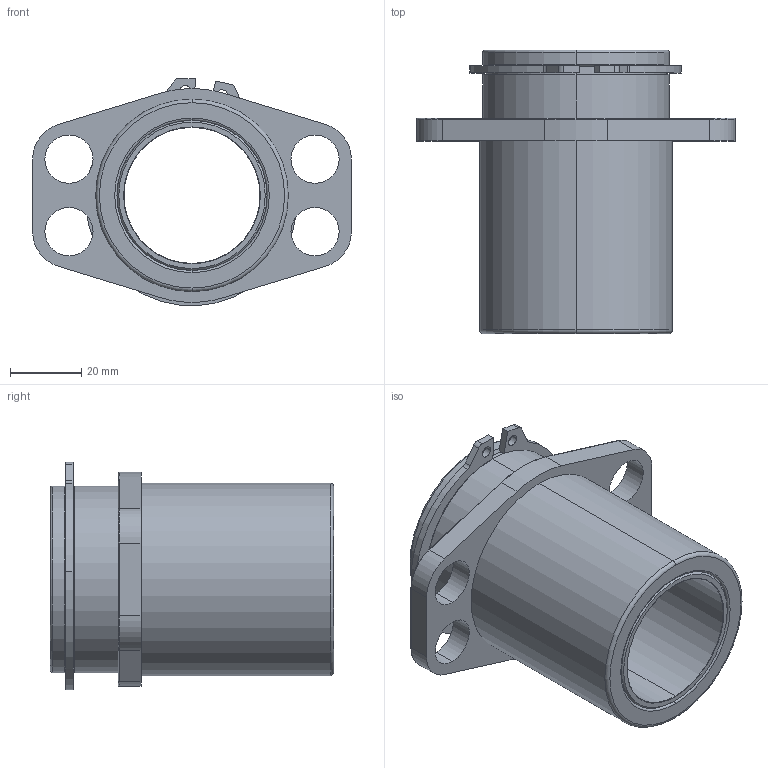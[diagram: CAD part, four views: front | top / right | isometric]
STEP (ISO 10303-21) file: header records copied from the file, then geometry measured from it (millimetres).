
FILE_DESCRIPTION (( 'STEP AP214' ), '1' );
FILE_NAME ('GK150-L3-E-Base.STEP', '2011-02-24T20:42:45', ( '' ), ( '' ), 'SwSTEP 2.0', 'SolidWorks 2010', '' );
FILE_SCHEMA (( 'AUTOMOTIVE_DESIGN' ));
Length unit declared in the file: inch
Products named in the file (4): GK150-L3-E-Base; Bushing-BU-1.5ID-3.0Long_Bushing-BU-1.5ID-3.0Long; RetainingRing-External-Standard-2.125Shaft_RetainingRing-External-Standard-2.125Shaft-L; Base-GK150-L_Base-GK150-L3-E-Cust
Assembly tree (3 placements, depth 2):
  GK150-L3-E-Base
    RetainingRing-External-Standard-2.125Shaft_RetainingRing-External-Standard-2.125Shaft-L
    Bushing-BU-1.5ID-3.0Long_Bushing-BU-1.5ID-3.0Long
    Base-GK150-L_Base-GK150-L3-E-Cust
Bounding box: 89.27 x 79.38 x 63.7 mm (x, y, z)
Volume: 97924 mm3; surface area: 51982 mm2
Topology: 3 solids, 3 shells, 97 faces, 229 edges, 141 vertices
Faces by surface type: cylinder 49, plane 21, torus 15, cone 12
Entity records: 3047 total; most frequent: DIRECTION 567, CARTESIAN_POINT 473, ORIENTED_EDGE 458, AXIS2_PLACEMENT_3D 235, EDGE_CURVE 229, VERTEX_POINT 141, CIRCLE 132, EDGE_LOOP 116
